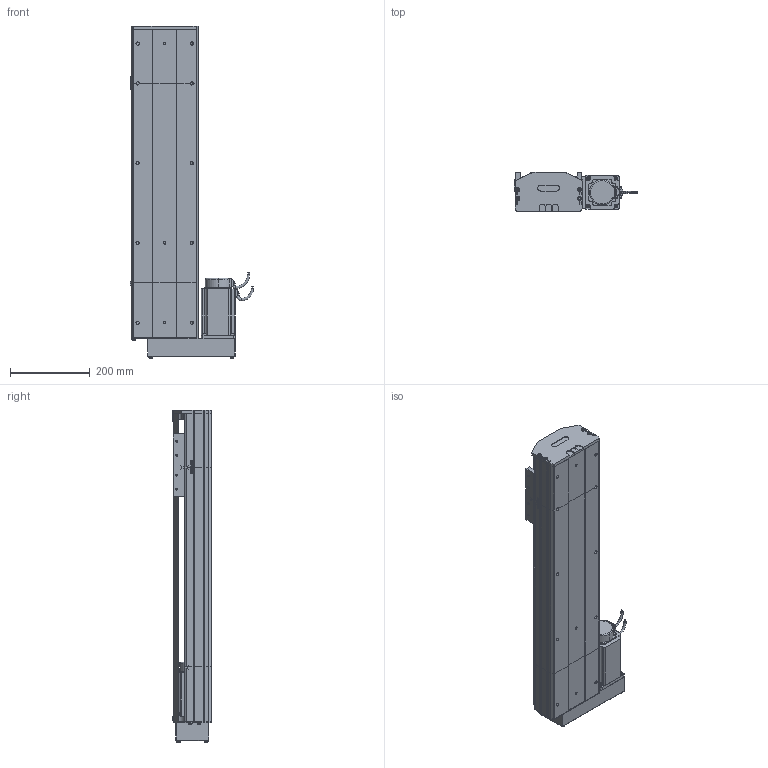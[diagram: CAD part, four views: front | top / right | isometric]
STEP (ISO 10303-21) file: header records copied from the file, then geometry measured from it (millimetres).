
FILE_DESCRIPTION (( 'STEP AP214' ), '1' );
FILE_NAME ('D17 TSH BL S500.STEP', '2010-06-29T14:50:09', ( 'Christophe Gaillard' ), ( 'SGA' ), 'SwSTEP 2.0', 'SolidWorks 2010', '' );
FILE_SCHEMA (( 'AUTOMOTIVE_DESIGN' ));
Length unit declared in the file: millimetre
Products named in the file (33): vis M5 L25_Default; corpl head D17 BM_Default; plaque de  bout tail D17_Default; corpl tail D17+L100_Default; Tail D17+L100_Default; Arbre+rail tail D17; vis M5 L8 90°_Default; D17 TSH BL S500; course 500 D17_Default; tete d''axe bas D17; tete d''axe haut D17; couvercle D17 course L500_Default; corp D17 500_Default; head BL_Default; arbre + rail D17 Course 500 ; couvercle D17_Default; Moteur motionking 90BLDC125A-640; chariot D17S_Default; Cvis M5 L70_Default; renvoi BL_Default; Arbre+rail head D17; Conecteur_Default; Conecteur2_Default; avant 90BLDC125A-640; couvercle D17 head_Default; vis M5 L5_Default; codeur 90BLDC125-640; plaque de  bout BM head D17_Default; corps 90BLDC125A-640; Vis M5 L16-2_Default; vis M5 L12_Default; guide D17; Chariot D17
Assembly tree (55 placements, depth 4):
  D17 TSH BL S500
    chariot D17S_Default
      guide D17  x2
      vis M5 L12_Default  x4
      Chariot D17
    course 500 D17_Default
      corp D17 500_Default
      arbre + rail D17 Course 500 
      couvercle D17 course L500_Default
    Tail D17+L100_Default
      vis M5 L12_Default  x4
      plaque de  bout tail D17_Default
      vis M5 L8 90°_Default  x2
      corpl tail D17+L100_Default
      couvercle D17_Default
      tete d''axe haut D17
      vis M5 L25_Default  x2
      Arbre+rail tail D17
      tete d''axe bas D17
    head BL_Default
      Vis M5 L16-2_Default  x4
      vis M5 L12_Default  x8
      couvercle D17 head_Default
      Cvis M5 L70_Default  x2
      vis M5 L5_Default  x2
      corpl head D17 BM_Default
      Arbre+rail head D17
      plaque de  bout BM head D17_Default
      Moteur motionking 90BLDC125A-640
        avant 90BLDC125A-640
        corps 90BLDC125A-640
        codeur 90BLDC125-640
        Conecteur_Default
        Conecteur2_Default
      renvoi BL_Default
Bounding box: 308.95 x 99.7 x 832.7 mm (x, y, z)
Volume: 6183948.8 mm3; surface area: 1525755.3 mm2
Topology: 80 solids, 80 shells, 2237 faces, 5605 edges, 3616 vertices
Faces by surface type: plane 1400, cylinder 560, bspline 136, torus 73, cone 64, sphere 4
Entity records: 72147 total; most frequent: CARTESIAN_POINT 22566, ORIENTED_EDGE 8718, DIRECTION 8164, EDGE_CURVE 4359, VECTOR 3044, LINE 3044, VERTEX_POINT 2862, AXIS2_PLACEMENT_3D 2560
